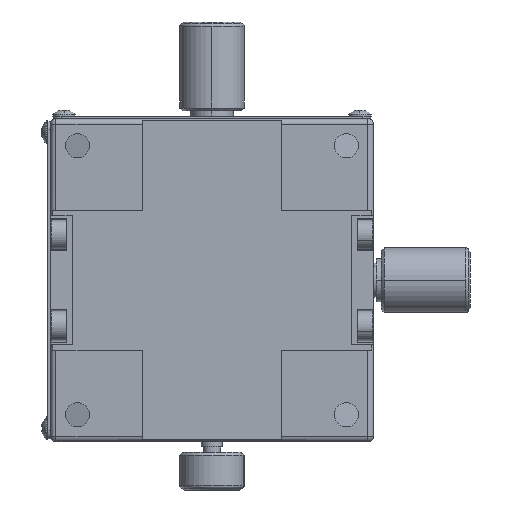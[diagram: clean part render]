
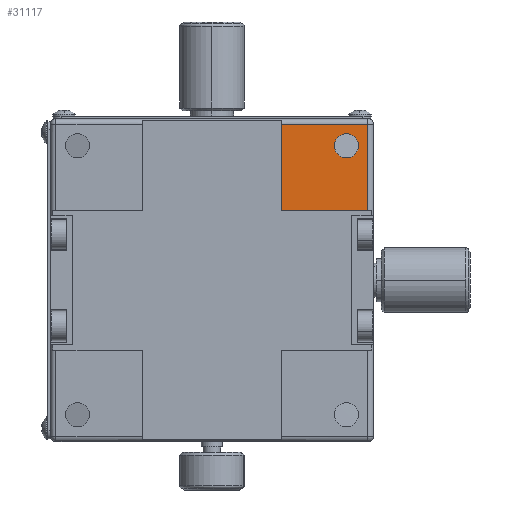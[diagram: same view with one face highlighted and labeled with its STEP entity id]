
A CAD part, front view. The second image highlights one B-rep face of the part: STEP entity #31117.
In plain terms, the highlighted planar face has unit normal (0, -1, 0).
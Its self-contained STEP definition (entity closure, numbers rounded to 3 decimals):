
#2403 = DIRECTION ( 'NONE',  ( 0., 1., 0. ) ) ;
#5049 = LINE ( 'NONE', #8100, #83671 ) ;
#5160 = VERTEX_POINT ( 'NONE', #96786 ) ;
#6715 = CARTESIAN_POINT ( 'NONE',  ( 29.203, -25.392, 30. ) ) ;
#8100 = CARTESIAN_POINT ( 'NONE',  ( 13.203, -25.392, 29. ) ) ;
#8445 = VECTOR ( 'NONE', #14365, 1000. ) ;
#9566 = VERTEX_POINT ( 'NONE', #96515 ) ;
#11411 = DIRECTION ( 'NONE',  ( 0., 1., 0. ) ) ;
#11687 = CIRCLE ( 'NONE', #77927, 2.25 ) ;
#13134 = ORIENTED_EDGE ( 'NONE', *, *, #29027, .T. ) ;
#14365 = DIRECTION ( 'NONE',  ( 0., 0., 1. ) ) ;
#16013 = CARTESIAN_POINT ( 'NONE',  ( 13.203, -25.392, 29. ) ) ;
#16357 = ORIENTED_EDGE ( 'NONE', *, *, #79189, .T. ) ;
#16364 = EDGE_CURVE ( 'NONE', #36286, #54797, #5049, .T. ) ;
#18166 = AXIS2_PLACEMENT_3D ( 'NONE', #56996, #11411, #64634 ) ;
#19319 = AXIS2_PLACEMENT_3D ( 'NONE', #33398, #86721, #41092 ) ;
#20076 = CARTESIAN_POINT ( 'NONE',  ( 13.203, -25.392, -30. ) ) ;
#23700 = ORIENTED_EDGE ( 'NONE', *, *, #16364, .T. ) ;
#26914 = CARTESIAN_POINT ( 'NONE',  ( 25.203, -25.392, 27.25 ) ) ;
#29027 = EDGE_CURVE ( 'NONE', #88299, #61754, #50906, .T. ) ;
#31054 = LINE ( 'NONE', #6715, #8445 ) ;
#31117 = ADVANCED_FACE ( 'NONE', ( #63704, #83995 ), #55985, .F. ) ;
#32517 = ORIENTED_EDGE ( 'NONE', *, *, #86226, .T. ) ;
#32586 = LINE ( 'NONE', #41437, #91016 ) ;
#33398 = CARTESIAN_POINT ( 'NONE',  ( 25.203, -25.392, 25. ) ) ;
#33473 = VECTOR ( 'NONE', #88693, 1000. ) ;
#35291 = CARTESIAN_POINT ( 'NONE',  ( 25.203, -25.392, 22.75 ) ) ;
#36286 = VERTEX_POINT ( 'NONE', #43195 ) ;
#37501 = ORIENTED_EDGE ( 'NONE', *, *, #70500, .F. ) ;
#41092 = DIRECTION ( 'NONE',  ( 0., 0., 1. ) ) ;
#41437 = CARTESIAN_POINT ( 'NONE',  ( 30.203, -25.392, 13. ) ) ;
#42023 = EDGE_CURVE ( 'NONE', #9566, #5160, #32586, .T. ) ;
#43195 = CARTESIAN_POINT ( 'NONE',  ( 29.203, -25.392, 29. ) ) ;
#47956 = CARTESIAN_POINT ( 'NONE',  ( 25.203, -25.392, 25. ) ) ;
#50906 = CIRCLE ( 'NONE', #19319, 2.25 ) ;
#53736 = LINE ( 'NONE', #20076, #33473 ) ;
#54797 = VERTEX_POINT ( 'NONE', #16013 ) ;
#55615 = DIRECTION ( 'NONE',  ( 0., 0., 1. ) ) ;
#55985 = PLANE ( 'NONE',  #18166 ) ;
#56996 = CARTESIAN_POINT ( 'NONE',  ( -29.797, -25.392, 30. ) ) ;
#61754 = VERTEX_POINT ( 'NONE', #26914 ) ;
#63704 = FACE_BOUND ( 'NONE', #78433, .T. ) ;
#64634 = DIRECTION ( 'NONE',  ( -1., 0., 0. ) ) ;
#68214 = EDGE_LOOP ( 'NONE', ( #32517, #23700, #37501, #91811 ) ) ;
#70500 = EDGE_CURVE ( 'NONE', #5160, #54797, #53736, .T. ) ;
#77927 = AXIS2_PLACEMENT_3D ( 'NONE', #47956, #2403, #55615 ) ;
#78433 = EDGE_LOOP ( 'NONE', ( #16357, #13134 ) ) ;
#79189 = EDGE_CURVE ( 'NONE', #61754, #88299, #11687, .T. ) ;
#83671 = VECTOR ( 'NONE', #92005, 1000. ) ;
#83995 = FACE_OUTER_BOUND ( 'NONE', #68214, .T. ) ;
#86226 = EDGE_CURVE ( 'NONE', #9566, #36286, #31054, .T. ) ;
#86721 = DIRECTION ( 'NONE',  ( 0., 1., 0. ) ) ;
#87057 = DIRECTION ( 'NONE',  ( -1., 0., 0. ) ) ;
#88299 = VERTEX_POINT ( 'NONE', #35291 ) ;
#88693 = DIRECTION ( 'NONE',  ( 0., 0., 1. ) ) ;
#91016 = VECTOR ( 'NONE', #87057, 1000. ) ;
#91811 = ORIENTED_EDGE ( 'NONE', *, *, #42023, .F. ) ;
#92005 = DIRECTION ( 'NONE',  ( -1., 0., 0. ) ) ;
#96515 = CARTESIAN_POINT ( 'NONE',  ( 29.203, -25.392, 13. ) ) ;
#96786 = CARTESIAN_POINT ( 'NONE',  ( 13.203, -25.392, 13. ) ) ;
